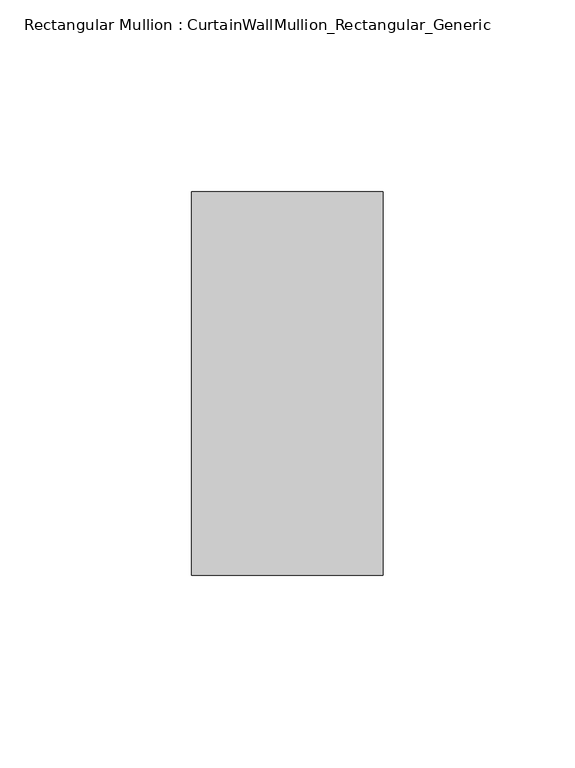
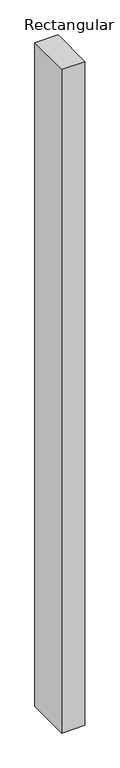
"""IFC4 building model written with IfcOpenShell, lengths in millimetres: member geometry, Rectangular Mullion : CurtainWallMullion_Rectangular_Generic."""

from ifc_helpers import new_model, si_unit, frame, origin, place, context, project, spatial, polyline, outline, extrude, source, transform, mapped, element, save


def rectangular_mullion_curtainwallmullion_rectangular_generic_e6673756(model_context):
    return source(origin(), model_context, "Body", "SweptSolid", [
        extrude(outline(polyline([(25.0, 50.0), (25.0, -50.0), (-25.0, -50.0), (-25.0, 50.0), (25.0, 50.0)])), frame((0.0, 0.0, -1511.1111113), z_axis=(0.0, 0.0, 1.0), x_axis=(1.0, 0.0, 0.0)), (0.0, 0.0, 1.0), 1511.1111113),
    ])


if __name__ == "__main__":
    model = new_model("IFC4")
    model_context = context("Model", 3, world=origin())
    ifc_project = project(units=[si_unit("LENGTHUNIT", "METRE", prefix="MILLI")], contexts=[model_context])
    site = spatial("IfcSite", under=ifc_project)
    building = spatial("IfcBuilding", under=site)
    placement = place(None, origin())
    rectangular_mullion_curtainwallmullion_rectangular_generic_shape = rectangular_mullion_curtainwallmullion_rectangular_generic_e6673756(model_context)
    element("IfcMember", 1, ObjectType="Rectangular Mullion : CurtainWallMullion_Rectangular_Generic", at=placement, inside=building, context=model_context, shape_type="MappedRepresentation", body=[
        mapped(rectangular_mullion_curtainwallmullion_rectangular_generic_shape, transform((0.0, 0.0, 0.0), x_axis=(1.0, 0.0, 0.0), y_axis=(0.0, 1.0, 0.0), z_axis=(0.0, 0.0, 1.0))),
    ])
    save(model, "model.ifc")
